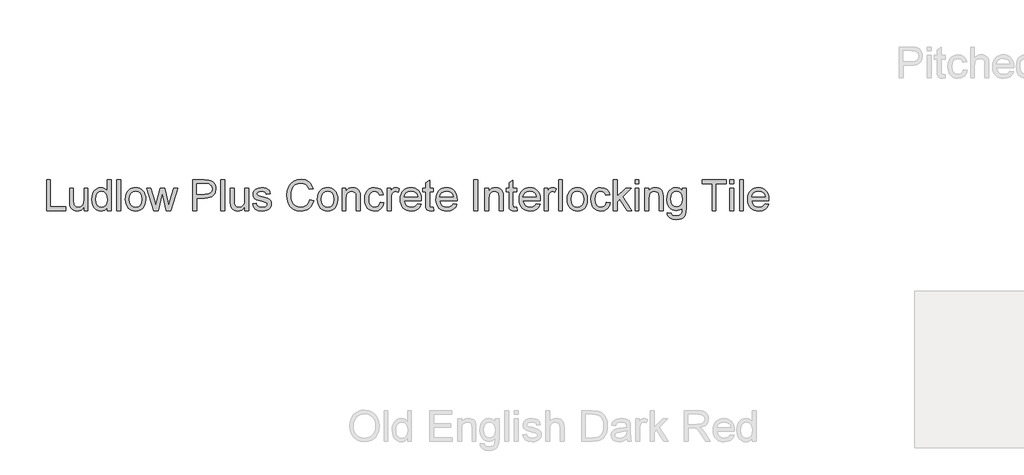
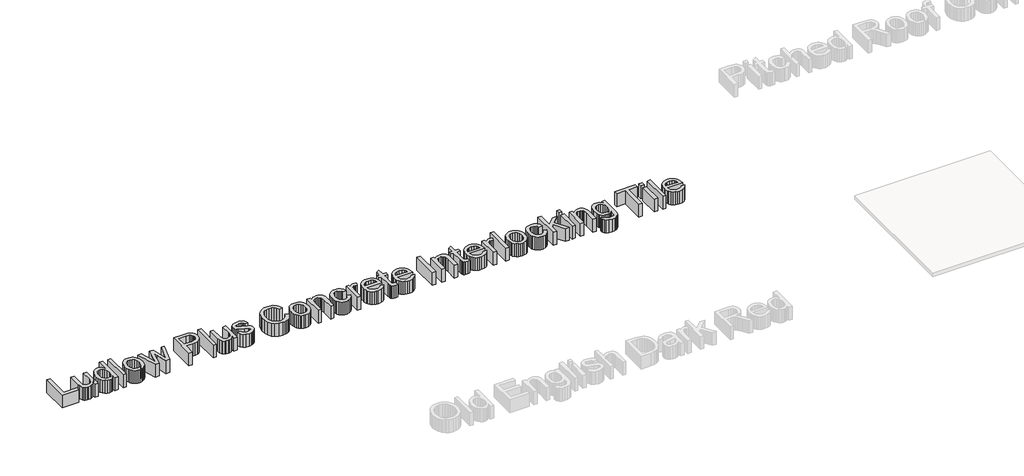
# One storey, part 3 of 5: 1 proxy.
"""IFC4 building model written with IfcOpenShell, lengths in millimetres."""

import ifcopenshell
import ifcopenshell.guid

model = None  # the IFC model being written
_history = None  # IfcOwnerHistory: only IFC2X3 demands one
_inside = {}  # id of a spatial element -> (the spatial element, [elements in it])
_under = {}  # id of a project, library or spatial element -> (it, [spatial elements below it])
_declared = {}  # id of a project -> (the project, [libraries it declares])
_typed = {}  # id of a type object -> (the type object, [elements of that type])
_made_of = {}  # id of a material, layer set ... -> (it, [elements and type objects made of it])


def new_model(schema):
    """Start an empty IFC model of exactly this schema.

    Asked for "IFC4X3", IfcOpenShell would pick the latest addendum, in which some entities
    have other attributes; the version numbers below select the first issue.
    IFC2X3 requires an IfcOwnerHistory on every rooted entity: one is made here for all.
    """
    global model, _history
    if schema == "IFC4X3":
        model = ifcopenshell.file(schema_version=(4, 3, 0, 0))
    else:
        model = ifcopenshell.file(schema=schema)
    _inside.clear()
    _under.clear()
    _declared.clear()
    _typed.clear()
    _made_of.clear()
    _history = None
    if model.schema == "IFC2X3":
        org = make("IfcOrganization", Name="unknown")
        user = make(
            "IfcPersonAndOrganization",
            ThePerson=make("IfcPerson", FamilyName="unknown"),
            TheOrganization=org,
        )
        app = make(
            "IfcApplication",
            ApplicationDeveloper=org,
            Version="unknown",
            ApplicationFullName="unknown",
            ApplicationIdentifier="unknown",
        )
        _history = make(
            "IfcOwnerHistory",
            OwningUser=user,
            OwningApplication=app,
            ChangeAction="ADDED",
            CreationDate=0,
        )
    return model


def make(cls, **values):
    """One entity of the class cls with the attributes given. An attribute that is None is left unset."""
    return model.create_entity(
        cls, **{name: value for name, value in values.items() if value is not None}
    )


def rooted(cls, **values):
    """An entity with a GlobalId (a new one), such as an element, a storey or a relation."""
    return make(cls, GlobalId=ifcopenshell.guid.new(), OwnerHistory=_history, **values)


def si_unit(unit_type, name, prefix=None):
    """IfcSIUnit, for example si_unit("LENGTHUNIT", "METRE", prefix="MILLI")."""
    return make("IfcSIUnit", UnitType=unit_type, Prefix=prefix, Name=name)


def assignment(units):
    """IfcUnitAssignment: the units of a project."""
    return None if units is None else make("IfcUnitAssignment", Units=units)


def point(xyz):
    """IfcCartesianPoint."""
    return None if xyz is None else make("IfcCartesianPoint", Coordinates=xyz)


def direction(xyz):
    """IfcDirection."""
    return None if xyz is None else make("IfcDirection", DirectionRatios=xyz)


def frame(location, z_axis=None, x_axis=None):
    """IfcAxis2Placement3D, a coordinate frame: its origin and axes. An axis left out is left unset."""
    return make(
        "IfcAxis2Placement3D",
        Location=point(location),
        Axis=direction(z_axis),
        RefDirection=direction(x_axis),
    )


def origin():
    """The frame at (0, 0, 0) with its axes left unset."""
    return frame((0.0, 0.0, 0.0))


def place(relative_to, where):
    """IfcLocalPlacement: puts the frame where relative to a parent placement (None: the world)."""
    return make(
        "IfcLocalPlacement", PlacementRelTo=relative_to, RelativePlacement=where
    )


def context(
    kind, dimensions, precision=None, world=None, true_north=None, identifier=None
):
    """IfcGeometricRepresentationContext, for example the 3D "Model" context."""
    return make(
        "IfcGeometricRepresentationContext",
        ContextIdentifier=identifier,
        ContextType=kind,
        CoordinateSpaceDimension=dimensions,
        Precision=precision,
        WorldCoordinateSystem=world,
        TrueNorth=true_north,
    )


def project(units=None, contexts=None):
    """IfcProject with its units and contexts."""
    return rooted(
        "IfcProject",
        Name="project",
        RepresentationContexts=contexts,
        UnitsInContext=assignment(units),
    )


def spatial(cls, under=None, at=None, **own):
    """A site, building, storey or space (cls), placed at a placement, below another one or the project."""
    s = rooted(cls, ObjectPlacement=at, **own)
    if under is not None:
        _under.setdefault(under.id(), (under, []))[1].append(s)
    return s


def polyline(points):
    """IfcPolyline through the points."""
    return make("IfcPolyline", Points=[point(p) for p in points])


def outline(outer, holes=None, kind="AREA"):
    """IfcArbitraryClosedProfileDef: a profile drawn as a closed curve; with holes, ...WithVoids."""
    if holes is None:
        return make("IfcArbitraryClosedProfileDef", ProfileType=kind, OuterCurve=outer)
    return make(
        "IfcArbitraryProfileDefWithVoids",
        ProfileType=kind,
        OuterCurve=outer,
        InnerCurves=holes,
    )


def extrude(swept, where, along, depth):
    """IfcExtrudedAreaSolid: the profile swept, set in the frame where, extruded along a direction by depth."""
    return make(
        "IfcExtrudedAreaSolid",
        SweptArea=swept,
        Position=where,
        ExtrudedDirection=direction(along),
        Depth=depth,
    )


def shape(context_of_items, identifier, shape_type, items):
    """IfcShapeRepresentation: the items that make up one representation, for example the "Body"."""
    return make(
        "IfcShapeRepresentation",
        ContextOfItems=context_of_items,
        RepresentationIdentifier=identifier,
        RepresentationType=shape_type,
        Items=items,
    )


def made_of(thing, what):
    """Note that an element or type object is made of a material, layer set ...; save() writes the relation."""
    if what is not None:
        _made_of.setdefault(what.id(), (what, []))[1].append(thing)
    return thing


def element(
    cls,
    number,
    at=None,
    inside=None,
    cuts=None,
    type_object=None,
    material=None,
    context=None,
    identifier="Body",
    shape_type=None,
    held_by="IfcProductDefinitionShape",
    body=None,
    shapes=None,
    **own,
):
    """One element of the class cls, such as IfcWall. Its Tag is "e" and its number.

    at: its placement. inside: the storey or other place that contains it. cuts: it is an
    opening in that element (IfcRelVoidsElement). A single representation is given by context,
    identifier, shape_type and body (its items); several are given by shapes. held_by: the class
    of the entity that holds the representations. save() writes the other relations.
    """
    e = rooted(cls, Tag="e%d" % number, ObjectPlacement=at, **own)
    if body is not None:
        shapes = [shape(context, identifier, shape_type, body)]
    if shapes is not None:
        e.Representation = make(held_by, Representations=shapes)
    if inside is not None:
        _inside.setdefault(inside.id(), (inside, []))[1].append(e)
    if cuts is not None:
        rooted(
            "IfcRelVoidsElement", RelatingBuildingElement=cuts, RelatedOpeningElement=e
        )
    if type_object is not None:
        _typed.setdefault(type_object.id(), (type_object, []))[1].append(e)
    return made_of(e, material)


def aggregate(whole, parts):
    """IfcRelAggregates: a whole, such as a stair, and the parts it consists of."""
    return rooted("IfcRelAggregates", RelatingObject=whole, RelatedObjects=parts)


def save(model, path):
    """Write the relations noted so far, then the file.

    IfcRelAggregates (storeys below a building ...), IfcRelContainedInSpatialStructure (elements
    in a storey), IfcRelDefinesByType, IfcRelAssociatesMaterial and IfcRelDeclares: one each for
    every whole, place, type object, material and project.
    """
    for whole, parts in _under.values():
        aggregate(whole, parts)
    for where, things in _inside.values():
        rooted(
            "IfcRelContainedInSpatialStructure",
            RelatedElements=things,
            RelatingStructure=where,
        )
    for kind, things in _typed.values():
        rooted("IfcRelDefinesByType", RelatedObjects=things, RelatingType=kind)
    for what, things in _made_of.values():
        rooted("IfcRelAssociatesMaterial", RelatedObjects=things, RelatingMaterial=what)
    for by, libraries in _declared.values():
        rooted("IfcRelDeclares", RelatingContext=by, RelatedDefinitions=libraries)
    model.write(path)


model = new_model("IFC4")

# Units and contexts
model_context = context("Model", 3, world=origin())
ifc_project = project(units=[si_unit("LENGTHUNIT", "METRE", prefix="MILLI")], contexts=[model_context])

# Site, building, storey
site = spatial("IfcSite", under=ifc_project)
building = spatial("IfcBuilding", under=site)
storey = spatial("IfcBuildingStorey", under=building, Name="Marley Concrete Interlocking Tile", Elevation=3000.0)

# Proxy
placement = place(None, origin())
element("IfcBuildingElementProxy", 1, Name="600mm Arial", ObjectType="600mm Arial", at=placement, inside=storey, context=model_context, shape_type="SweptSolid", body=[
    extrude(outline(polyline([(-19686.5156561, 5898.2213568), (-19686.5156561, 6193.6059722), (-19649.5925792, 6193.6059722), (-19649.5925792, 5935.1444337), (-19501.9002715, 5935.1444337), (-19501.9002715, 5898.2213568), (-19686.5156561, 5898.2213568)])), frame((0.0, 0.0, 3000.0), z_axis=(0.0, 0.0, 1.0), x_axis=(1.0, 0.0, 0.0)), (0.0, 0.0, 1.0), 150.0),
    extrude(outline(polyline([(-19326.5156561, 5898.2213568), (-19326.5156561, 5935.5050106), (-19339.8750311, 5917.1741813), (-19355.4339254, 5904.0807318), (-19373.1923388, 5896.2246621), (-19393.1502715, 5893.6059722), (-19411.1340456, 5895.4449145), (-19427.8738292, 5900.9617414), (-19441.9183004, 5909.2550106), (-19451.8161369, 5919.4232799), (-19462.8137331, 5946.6107799), (-19464.9771946, 5980.9377029), (-19464.9771946, 6115.1444337), (-19428.0541177, 6115.1444337), (-19428.0541177, 5998.3175106), (-19425.8185408, 5960.6732799), (-19420.4369302, 5948.1161885), (-19411.2151754, 5938.5699145), (-19398.7662571, 5932.5392654), (-19383.7031561, 5930.5290491), (-19367.7746706, 5932.5843376), (-19352.8738292, 5938.7502029), (-19340.5871706, 5948.4587366), (-19332.5012331, 5961.1420299), (-19328.0120504, 5978.5128231), (-19326.5156561, 6002.2838568), (-19326.5156561, 6115.1444337), (-19289.5925792, 6115.1444337), (-19289.5925792, 5898.2213568), (-19326.5156561, 5898.2213568)])), frame((0.0, 0.0, 3000.0), z_axis=(0.0, 0.0, 1.0), x_axis=(1.0, 0.0, 0.0)), (0.0, 0.0, 1.0), 150.0),
    extrude(outline(polyline([(-19104.9771946, 5898.2213568), (-19104.9771946, 5933.0530876), (-19116.0243701, 5915.7949746), (-19129.4062811, 5903.467751), (-19145.1229278, 5896.0714169), (-19163.17431, 5893.6059722), (-19187.0445023, 5897.1756837), (-19208.8954638, 5907.8848183), (-19227.39306, 5924.9851789), (-19241.2031561, 5947.7285683), (-19249.8029158, 5975.1955154), (-19252.6695023, 6006.4665491), (-19250.0282763, 6037.3499626), (-19242.1045985, 6065.2405876), (-19228.9074831, 6088.5518856), (-19210.4459446, 6105.6973183), (-19188.1172186, 6116.2441933), (-19163.3185408, 6119.7598183), (-19145.2536369, 6117.2447943), (-19129.2800792, 6109.6997222), (-19115.7404158, 6098.1342174), (-19104.9771946, 6083.5578952), (-19104.9771946, 6193.6059722), (-19068.0541177, 6193.6059722), (-19068.0541177, 5898.2213568), (-19104.9771946, 5898.2213568)]), holes=[polyline([(-19215.7464254, 6006.6107799), (-19211.5817619, 5973.2123424), (-19199.0877715, 5949.4593376), (-19180.9327235, 5935.2616212), (-19159.7848869, 5930.5290491), (-19138.6460648, 5935.0452751), (-19120.9507523, 5948.5939529), (-19108.970584, 5971.4274866), (-19104.9771946, 6003.7982799), (-19109.0426994, 6039.1889049), (-19121.2392138, 6063.7261645), (-19139.3852475, 6078.0590972), (-19161.29931, 6082.8367414), (-19182.6634927, 6078.2484001), (-19200.1695023, 6064.483376), (-19211.8521946, 6040.8385443), (-19215.7464254, 6006.6107799)])]), frame((0.0, 0.0, 3000.0), z_axis=(0.0, 0.0, 1.0), x_axis=(1.0, 0.0, 0.0)), (0.0, 0.0, 1.0), 150.0),
    extrude(outline(polyline([(-19012.6695023, 5898.2213568), (-19012.6695023, 6193.6059722), (-18975.7464254, 6193.6059722), (-18975.7464254, 5898.2213568), (-19012.6695023, 5898.2213568)])), frame((0.0, 0.0, 3000.0), z_axis=(0.0, 0.0, 1.0), x_axis=(1.0, 0.0, 0.0)), (0.0, 0.0, 1.0), 150.0),
    extrude(outline(polyline([(-18929.5925792, 6006.6828952), (-18927.5958845, 6034.7763448), (-18921.6058004, 6058.9845779), (-18911.6223268, 6079.3075948), (-18897.6454638, 6095.7453952), (-18883.5739494, 6106.2517053), (-18868.0420985, 6113.7562126), (-18851.049911, 6118.2589169), (-18832.5973869, 6119.7598183), (-18812.2270444, 6117.932144), (-18793.8083244, 6112.4491212), (-18777.3412271, 6103.3107498), (-18762.8257523, 6090.5170299), (-18750.9785468, 6074.5006537), (-18742.5162571, 6055.6943135), (-18737.4388833, 6034.0980094), (-18735.7464254, 6009.7117414), (-18738.7392138, 5972.4100587), (-18747.7175792, 5944.014626), (-18762.4201033, 5922.749602), (-18782.5853677, 5906.8391452), (-18806.5366898, 5896.9142654), (-18832.5973869, 5893.6059722), (-18853.2652054, 5895.4268856), (-18871.8551994, 5900.889626), (-18888.3673689, 5909.9941933), (-18902.8017138, 5922.7405876), (-18914.5227174, 5938.9124626), (-18922.8948629, 5958.2934722), (-18927.9181501, 5980.8836164), (-18929.5925792, 6006.6828952)]), holes=[polyline([(-18892.6695023, 6006.7550106), (-18888.3966658, 5973.3385443), (-18875.5781561, 5949.5314529), (-18856.2872908, 5935.2796501), (-18832.5973869, 5930.5290491), (-18809.0156561, 5935.3066933), (-18789.7608485, 5949.639626), (-18776.9423388, 5973.7622222), (-18772.6695023, 6007.9088568), (-18776.9693821, 6040.3517654), (-18789.8690215, 6063.8343376), (-18809.1508725, 6078.0861404), (-18832.5973869, 6082.8367414), (-18856.2872908, 6078.1041693), (-18875.5781561, 6063.9064529), (-18888.3966658, 6040.1534481), (-18892.6695023, 6006.7550106)])]), frame((0.0, 0.0, 3000.0), z_axis=(0.0, 0.0, 1.0), x_axis=(1.0, 0.0, 0.0)), (0.0, 0.0, 1.0), 150.0),
    extrude(outline(polyline([(-18658.2223869, 5898.2213568), (-18724.2079638, 6115.1444337), (-18685.8425792, 6115.1444337), (-18648.4146946, 5988.5819337), (-18637.23681, 5943.3655876), (-18628.0781561, 5986.9232799), (-18598.2945023, 6115.1444337), (-18554.3041177, 6115.1444337), (-18524.6646946, 5987.2838568), (-18516.5156561, 5947.8367414), (-18504.8329638, 5989.4473183), (-18467.3329638, 6115.1444337), (-18428.8233485, 6115.1444337), (-18495.3137331, 5898.2213568), (-18539.9531561, 5898.2213568), (-18568.2945023, 6025.4328952), (-18576.5156561, 6065.0963568), (-18613.0781561, 5898.2213568), (-18658.2223869, 5898.2213568)])), frame((0.0, 0.0, 3000.0), z_axis=(0.0, 0.0, 1.0), x_axis=(1.0, 0.0, 0.0)), (0.0, 0.0, 1.0), 150.0),
    extrude(outline(polyline([(-18283.4387331, 5898.2213568), (-18283.4387331, 6193.6059722), (-18173.9675792, 6193.6059722), (-18129.8329638, 6190.7934722), (-18110.1544783, 6185.5380635), (-18093.95556, 6176.983376), (-18080.9116898, 6164.7417895), (-18070.6983485, 6148.4256837), (-18064.0997908, 6129.1798904), (-18061.9002715, 6108.1492414), (-18067.8407763, 6073.3355395), (-18075.2664074, 6058.1056717), (-18085.6622908, 6044.327126), (-18099.9343761, 6032.905852), (-18118.9886129, 6024.7477991), (-18142.8250011, 6019.8529674), (-18171.4435408, 6018.2213568), (-18246.5156561, 6018.2213568), (-18246.5156561, 5898.2213568), (-18283.4387331, 5898.2213568)]), holes=[polyline([(-18246.5156561, 6055.1444337), (-18169.2800792, 6055.1444337), (-18136.5396946, 6058.5338568), (-18114.9050792, 6068.702126), (-18102.8437811, 6085.0182318), (-18098.8233485, 6106.8511645), (-18101.1941417, 6123.4377029), (-18108.3065215, 6137.4280876), (-18119.2770744, 6147.9569337), (-18133.2223869, 6154.1588568), (-18170.1454638, 6156.6828952), (-18246.5156561, 6156.6828952), (-18246.5156561, 6055.1444337)])]), frame((0.0, 0.0, 3000.0), z_axis=(0.0, 0.0, 1.0), x_axis=(1.0, 0.0, 0.0)), (0.0, 0.0, 1.0), 150.0),
    extrude(outline(polyline([(-18015.7464254, 5898.2213568), (-18015.7464254, 6193.6059722), (-17978.8233485, 6193.6059722), (-17978.8233485, 5898.2213568), (-18015.7464254, 5898.2213568)])), frame((0.0, 0.0, 3000.0), z_axis=(0.0, 0.0, 1.0), x_axis=(1.0, 0.0, 0.0)), (0.0, 0.0, 1.0), 150.0),
    extrude(outline(polyline([(-17784.9771946, 5898.2213568), (-17784.9771946, 5935.5050106), (-17798.3365696, 5917.1741813), (-17813.8954638, 5904.0807318), (-17831.6538773, 5896.2246621), (-17851.61181, 5893.6059722), (-17869.595584, 5895.4449145), (-17886.3353677, 5900.9617414), (-17900.3798388, 5909.2550106), (-17910.2776754, 5919.4232799), (-17921.2752715, 5946.6107799), (-17923.4387331, 5980.9377029), (-17923.4387331, 6115.1444337), (-17886.5156561, 6115.1444337), (-17886.5156561, 5998.3175106), (-17884.2800792, 5960.6732799), (-17878.8984686, 5948.1161885), (-17869.6767138, 5938.5699145), (-17857.2277956, 5932.5392654), (-17842.1646946, 5930.5290491), (-17826.236209, 5932.5843376), (-17811.3353677, 5938.7502029), (-17799.048709, 5948.4587366), (-17790.9627715, 5961.1420299), (-17786.4735888, 5978.5128231), (-17784.9771946, 6002.2838568), (-17784.9771946, 6115.1444337), (-17748.0541177, 6115.1444337), (-17748.0541177, 5898.2213568), (-17784.9771946, 5898.2213568)])), frame((0.0, 0.0, 3000.0), z_axis=(0.0, 0.0, 1.0), x_axis=(1.0, 0.0, 0.0)), (0.0, 0.0, 1.0), 150.0),
    extrude(outline(polyline([(-17711.1310408, 5962.8367414), (-17674.2079638, 5967.452126), (-17668.3846465, 5951.6588568), (-17657.1166177, 5940.0482799), (-17640.3317619, 5932.9088568), (-17617.9579638, 5930.5290491), (-17595.8545985, 5932.7105395), (-17580.3137331, 5939.2550106), (-17571.1190215, 5948.7381837), (-17568.0541177, 5959.7357799), (-17571.1370504, 5969.1468376), (-17580.3858485, 5976.3223183), (-17618.3906561, 5986.8511645), (-17673.9916177, 6004.9160683), (-17688.0631321, 6013.9935924), (-17698.2584446, 6026.0098183), (-17704.4513533, 6040.1985202), (-17706.5156561, 6055.7934722), (-17704.8570023, 6070.0993616), (-17699.8810408, 6083.3054914), (-17692.0384927, 6094.8890251), (-17681.7800792, 6104.327126), (-17658.3065215, 6115.2526068), (-17626.5396946, 6119.7598183), (-17602.5072427, 6117.9479193), (-17581.61181, 6112.5122222), (-17564.8089254, 6103.9845779), (-17553.0541177, 6092.8968376), (-17545.2656561, 6078.4286885), (-17540.36181, 6059.7598183), (-17577.2848869, 6055.1444337), (-17581.9453436, 6066.7640251), (-17591.1670985, 6075.5170299), (-17605.0402956, 6081.0068135), (-17623.6550792, 6082.8367414), (-17644.8570023, 6081.0879433), (-17658.9916177, 6075.8415491), (-17666.9423388, 6068.2694337), (-17669.5925792, 6059.5434722), (-17665.1935408, 6048.7982799), (-17651.4195023, 6040.6492414), (-17619.6166177, 6032.7886645), (-17565.4219061, 6015.4088568), (-17551.1070023, 6007.0975587), (-17540.2536369, 5995.7213568), (-17533.4116898, 5981.2441933), (-17531.1310408, 5963.6300106), (-17533.8083244, 5945.420876), (-17541.8401754, 5928.2934722), (-17554.9201033, 5913.5909481), (-17572.7416177, 5902.6564529), (-17594.26806, 5895.8685924), (-17618.4627715, 5893.6059722), (-17655.6923388, 5897.9689529), (-17682.86181, 5911.0578952), (-17700.9988292, 5932.7285683), (-17711.1310408, 5962.8367414)])), frame((0.0, 0.0, 3000.0), z_axis=(0.0, 0.0, 1.0), x_axis=(1.0, 0.0, 0.0)), (0.0, 0.0, 1.0), 150.0),
    extrude(outline(polyline([(-17161.9002715, 6003.2213568), (-17124.9771946, 5993.702126), (-17132.2833845, 5970.7401368), (-17142.0144542, 5950.6762847), (-17154.1704037, 5933.5105695), (-17168.7512331, 5919.2429914), (-17185.4279158, 5908.0267955), (-17203.8714254, 5900.015227), (-17224.0817619, 5895.2082859), (-17246.0589254, 5893.6059722), (-17288.8864494, 5898.4557318), (-17322.8978677, 5913.0050106), (-17348.9675792, 5936.749001), (-17367.9699831, 5969.1828952), (-17379.5715456, 6007.3139049), (-17383.4387331, 6048.1492414), (-17379.0667379, 6091.2201549), (-17365.9507523, 6128.4136645), (-17344.7758725, 6158.5488808), (-17316.2271946, 6180.4449145), (-17282.3690215, 6193.7772462), (-17245.2656561, 6198.2213568), (-17204.7818821, 6192.4701549), (-17187.169953, 6185.2811525), (-17171.3113292, 6175.2165491), (-17157.467429, 6162.5422702), (-17145.8996706, 6147.5242414), (-17129.5925792, 6110.4569337), (-17166.5156561, 6101.6588568), (-17179.3161369, 6128.5849385), (-17196.8041177, 6147.0554914), (-17219.1959446, 6157.7375827), (-17246.7079638, 6161.2982799), (-17278.4207042, 6157.3499626), (-17304.4723869, 6145.5050106), (-17324.2410167, 6127.0074145), (-17337.1045985, 6103.1011645), (-17344.1628917, 6076.0759241), (-17346.5156561, 6048.2213568), (-17343.7301994, 6014.1107799), (-17335.3738292, 5984.6155876), (-17321.1310408, 5960.8625827), (-17300.6863292, 5943.9785683), (-17276.1761129, 5933.8914289), (-17249.73681, 5930.5290491), (-17218.9164975, 5935.108376), (-17193.2344061, 5948.8463568), (-17173.8443821, 5971.5987606), (-17161.9002715, 6003.2213568)])), frame((0.0, 0.0, 3000.0), z_axis=(0.0, 0.0, 1.0), x_axis=(1.0, 0.0, 0.0)), (0.0, 0.0, 1.0), 150.0),
    extrude(outline(polyline([(-17088.0541177, 6006.6828952), (-17086.057423, 6034.7763448), (-17080.0673388, 6058.9845779), (-17070.0838653, 6079.3075948), (-17056.1070023, 6095.7453952), (-17042.0354879, 6106.2517053), (-17026.5036369, 6113.7562126), (-17009.5114494, 6118.2589169), (-16991.0589254, 6119.7598183), (-16970.6885828, 6117.932144), (-16952.2698629, 6112.4491212), (-16935.8027655, 6103.3107498), (-16921.2872908, 6090.5170299), (-16909.4400852, 6074.5006537), (-16900.9777956, 6055.6943135), (-16895.9004218, 6034.0980094), (-16894.2079638, 6009.7117414), (-16897.2007523, 5972.4100587), (-16906.1791177, 5944.014626), (-16920.8816417, 5922.749602), (-16941.0469061, 5906.8391452), (-16964.9982283, 5896.9142654), (-16991.0589254, 5893.6059722), (-17011.7267439, 5895.4268856), (-17030.3167379, 5900.889626), (-17046.8289074, 5909.9941933), (-17061.2632523, 5922.7405876), (-17072.9842559, 5938.9124626), (-17081.3564013, 5958.2934722), (-17086.3796886, 5980.8836164), (-17088.0541177, 6006.6828952)]), holes=[polyline([(-17051.1310408, 6006.7550106), (-17046.8582042, 5973.3385443), (-17034.0396946, 5949.5314529), (-17014.7488292, 5935.2796501), (-16991.0589254, 5930.5290491), (-16967.4771946, 5935.3066933), (-16948.2223869, 5949.639626), (-16935.4038773, 5973.7622222), (-16931.1310408, 6007.9088568), (-16935.4309206, 6040.3517654), (-16948.33056, 6063.8343376), (-16967.612411, 6078.0861404), (-16991.0589254, 6082.8367414), (-17014.7488292, 6078.1041693), (-17034.0396946, 6063.9064529), (-17046.8582042, 6040.1534481), (-17051.1310408, 6006.7550106)])]), frame((0.0, 0.0, 3000.0), z_axis=(0.0, 0.0, 1.0), x_axis=(1.0, 0.0, 0.0)), (0.0, 0.0, 1.0), 150.0),
    extrude(outline(polyline([(-16852.6695023, 5898.2213568), (-16852.6695023, 6115.1444337), (-16815.7464254, 6115.1444337), (-16815.7464254, 6084.8559722), (-16802.9189013, 6100.1264049), (-16787.5132523, 6111.0338568), (-16769.5294783, 6117.5783279), (-16748.9675792, 6119.7598183), (-16730.767459, 6118.0020058), (-16714.0997908, 6112.7285683), (-16700.1995504, 6104.5975587), (-16690.3017138, 6094.2670299), (-16679.2320023, 6067.1155876), (-16677.2848869, 6031.4184722), (-16677.2848869, 5898.2213568), (-16714.2079638, 5898.2213568), (-16714.2079638, 6026.4425106), (-16718.4627715, 6059.1107799), (-16724.3491898, 6068.8373424), (-16733.4988292, 6076.3824145), (-16745.2265936, 6081.2231597), (-16758.8473869, 6082.8367414), (-16780.4729879, 6079.2129433), (-16798.9074831, 6068.3415491), (-16806.2745203, 6059.4668496), (-16811.5366898, 6047.3379433), (-16815.7464254, 6013.3175106), (-16815.7464254, 5898.2213568), (-16852.6695023, 5898.2213568)])), frame((0.0, 0.0, 3000.0), z_axis=(0.0, 0.0, 1.0), x_axis=(1.0, 0.0, 0.0)), (0.0, 0.0, 1.0), 150.0),
    extrude(outline(polyline([(-16488.0541177, 5976.6828952), (-16451.1310408, 5972.0675106), (-16461.4255119, 5939.2279674), (-16480.7704638, 5914.4112606), (-16507.3449831, 5898.8072943), (-16539.3281561, 5893.6059722), (-16560.0365396, 5895.4201248), (-16578.6039975, 5900.8625827), (-16595.0305299, 5909.933346), (-16609.3161369, 5922.6324145), (-16620.8793881, 5938.7209061), (-16629.1388533, 5957.9599385), (-16634.0945324, 5980.3495118), (-16635.7464254, 6005.889626), (-16632.924911, 6038.7471981), (-16624.4603677, 6067.2237606), (-16610.2175792, 6090.2195539), (-16590.0613292, 6106.6348183), (-16565.9477475, 6116.4785683), (-16539.8329638, 6119.7598183), (-16508.6340456, 6115.2526068), (-16483.6911369, 6101.7309722), (-16465.7975071, 6079.9160683), (-16455.7464254, 6050.5290491), (-16492.6695023, 6045.9136645), (-16499.3672186, 6062.0224385), (-16509.7969061, 6073.5699145), (-16523.3816417, 6080.5200347), (-16539.5445023, 6082.8367414), (-16563.4056802, 6078.2754433), (-16582.3449831, 6064.5915491), (-16594.7037571, 6041.045876), (-16598.8233485, 6006.8992414), (-16594.7939013, 5972.2928712), (-16582.70556, 5948.6660683), (-16564.1088052, 5935.0633039), (-16540.5541177, 5930.5290491), (-16521.4345263, 5933.3595779), (-16505.7584446, 5941.8511645), (-16494.3551994, 5956.2201549), (-16488.0541177, 5976.6828952)])), frame((0.0, 0.0, 3000.0), z_axis=(0.0, 0.0, 1.0), x_axis=(1.0, 0.0, 0.0)), (0.0, 0.0, 1.0), 150.0),
    extrude(outline(polyline([(-16418.8233485, 5898.2213568), (-16418.8233485, 6115.1444337), (-16386.5156561, 6115.1444337), (-16386.5156561, 6083.0530876), (-16374.58056, 6101.6588568), (-16363.5829638, 6112.6203952), (-16352.54931, 6117.9749626), (-16340.5060408, 6119.7598183), (-16322.1166177, 6116.9112606), (-16303.4387331, 6108.3655876), (-16315.7704638, 6075.264626), (-16328.7512331, 6080.9437126), (-16341.7320023, 6082.8367414), (-16352.7566417, 6081.0158279), (-16362.6094061, 6075.5530876), (-16370.5691417, 6066.8631837), (-16375.9146946, 6055.3607799), (-16380.4038773, 6034.7357799), (-16381.9002715, 6012.2357799), (-16381.9002715, 5898.2213568), (-16418.8233485, 5898.2213568)])), frame((0.0, 0.0, 3000.0), z_axis=(0.0, 0.0, 1.0), x_axis=(1.0, 0.0, 0.0)), (0.0, 0.0, 1.0), 150.0),
    extrude(outline(polyline([(-16128.48681, 5962.8367414), (-16092.2848869, 5958.2213568), (-16105.3287571, 5930.9437126), (-16126.14306, 5910.5530876), (-16154.2590456, 5897.842751), (-16189.2079638, 5893.6059722), (-16212.1181201, 5895.4336464), (-16232.5312811, 5900.9166693), (-16250.447447, 5910.0550407), (-16265.8666177, 5922.8487606), (-16278.2659566, 5938.9417594), (-16287.1226273, 5957.9779674), (-16292.4366297, 5979.9573844), (-16294.2079638, 6004.8800106), (-16292.4186009, 6030.647739), (-16287.0505119, 6053.3595779), (-16278.103697, 6073.0155275), (-16265.5781561, 6089.6155876), (-16250.1995504, 6102.8036885), (-16232.6935408, 6112.2237606), (-16213.0601273, 6117.8758039), (-16191.29931, 6119.7598183), (-16170.2393641, 6117.8803111), (-16151.1941417, 6112.2417895), (-16134.1636429, 6102.8442534), (-16119.1478677, 6089.6877029), (-16106.8905059, 6073.1237005), (-16098.1352475, 6053.5038087), (-16092.8820924, 6030.8280275), (-16091.1310408, 6005.0963568), (-16091.3473869, 5995.1444337), (-16257.2848869, 5995.1444337), (-16250.893661, 5967.5062126), (-16236.0469061, 5947.1877029), (-16214.6196225, 5934.6937126), (-16188.48681, 5930.5290491), (-16168.8353677, 5932.4581356), (-16152.2848869, 5938.2453952), (-16138.8353677, 5948.2514049), (-16128.48681, 5962.8367414)]), holes=[polyline([(-16257.2848869, 6032.0675106), (-16128.0541177, 6032.0675106), (-16133.0481081, 6051.5747222), (-16142.8377715, 6065.5290491), (-16164.3642138, 6078.5098183), (-16191.4435408, 6082.8367414), (-16216.3323629, 6079.3842174), (-16236.9122908, 6069.0266452), (-16251.2181802, 6052.8818135), (-16257.2848869, 6032.0675106)])]), frame((0.0, 0.0, 3000.0), z_axis=(0.0, 0.0, 1.0), x_axis=(1.0, 0.0, 0.0)), (0.0, 0.0, 1.0), 150.0),
    extrude(outline(polyline([(-15975.7464254, 5929.014626), (-15971.1310408, 5897.139626), (-15998.7512331, 5893.6059722), (-16016.4735888, 5895.1384241), (-16029.6887331, 5899.7357799), (-16039.0276754, 5906.8211164), (-16045.1214254, 5915.8175106), (-16048.4747908, 5931.2682318), (-16049.5925792, 5957.7165491), (-16049.5925792, 6078.2213568), (-16077.2848869, 6078.2213568), (-16077.2848869, 6115.1444337), (-16049.5925792, 6115.1444337), (-16049.5925792, 6167.8607799), (-16012.6695023, 6189.5675106), (-16012.6695023, 6115.1444337), (-15975.7464254, 6115.1444337), (-15975.7464254, 6078.2213568), (-16012.6695023, 6078.2213568), (-16012.6695023, 5958.7982799), (-16010.7223869, 5939.7598183), (-16004.4122908, 5933.0170299), (-15991.8281561, 5930.5290491), (-15975.7464254, 5929.014626)])), frame((0.0, 0.0, 3000.0), z_axis=(0.0, 0.0, 1.0), x_axis=(1.0, 0.0, 0.0)), (0.0, 0.0, 1.0), 150.0),
    extrude(outline(polyline([(-15786.9483485, 5962.8367414), (-15750.7464254, 5958.2213568), (-15763.7902956, 5930.9437126), (-15784.6045985, 5910.5530876), (-15812.720584, 5897.842751), (-15847.6695023, 5893.6059722), (-15870.5796586, 5895.4336464), (-15890.9928196, 5900.9166693), (-15908.9089855, 5910.0550407), (-15924.3281561, 5922.8487606), (-15936.7274951, 5938.9417594), (-15945.5841658, 5957.9779674), (-15950.8981682, 5979.9573844), (-15952.6695023, 6004.8800106), (-15950.8801393, 6030.647739), (-15945.5120504, 6053.3595779), (-15936.5652355, 6073.0155275), (-15924.0396946, 6089.6155876), (-15908.6610888, 6102.8036885), (-15891.1550792, 6112.2237606), (-15871.5216658, 6117.8758039), (-15849.7608485, 6119.7598183), (-15828.7009025, 6117.8803111), (-15809.6556802, 6112.2417895), (-15792.6251814, 6102.8442534), (-15777.6094061, 6089.6877029), (-15765.3520444, 6073.1237005), (-15756.596786, 6053.5038087), (-15751.3436309, 6030.8280275), (-15749.5925792, 6005.0963568), (-15749.8089254, 5995.1444337), (-15915.7464254, 5995.1444337), (-15909.3551994, 5967.5062126), (-15894.5084446, 5947.1877029), (-15873.081161, 5934.6937126), (-15846.9483485, 5930.5290491), (-15827.2969061, 5932.4581356), (-15810.7464254, 5938.2453952), (-15797.2969061, 5948.2514049), (-15786.9483485, 5962.8367414)]), holes=[polyline([(-15915.7464254, 6032.0675106), (-15786.5156561, 6032.0675106), (-15791.5096465, 6051.5747222), (-15801.29931, 6065.5290491), (-15822.8257523, 6078.5098183), (-15849.9050792, 6082.8367414), (-15874.7939013, 6079.3842174), (-15895.3738292, 6069.0266452), (-15909.6797186, 6052.8818135), (-15915.7464254, 6032.0675106)])]), frame((0.0, 0.0, 3000.0), z_axis=(0.0, 0.0, 1.0), x_axis=(1.0, 0.0, 0.0)), (0.0, 0.0, 1.0), 150.0),
    extrude(outline(polyline([(-15588.0541177, 5898.2213568), (-15588.0541177, 6193.6059722), (-15551.1310408, 6193.6059722), (-15551.1310408, 5898.2213568), (-15588.0541177, 5898.2213568)])), frame((0.0, 0.0, 3000.0), z_axis=(0.0, 0.0, 1.0), x_axis=(1.0, 0.0, 0.0)), (0.0, 0.0, 1.0), 150.0),
    extrude(outline(polyline([(-15481.9002715, 5898.2213568), (-15481.9002715, 6115.1444337), (-15444.9771946, 6115.1444337), (-15444.9771946, 6084.8559722), (-15432.1496706, 6100.1264049), (-15416.7440215, 6111.0338568), (-15398.7602475, 6117.5783279), (-15378.1983485, 6119.7598183), (-15359.9982283, 6118.0020058), (-15343.33056, 6112.7285683), (-15329.4303196, 6104.5975587), (-15319.5324831, 6094.2670299), (-15308.4627715, 6067.1155876), (-15306.5156561, 6031.4184722), (-15306.5156561, 5898.2213568), (-15343.4387331, 5898.2213568), (-15343.4387331, 6026.4425106), (-15347.6935408, 6059.1107799), (-15353.579959, 6068.8373424), (-15362.7295985, 6076.3824145), (-15374.4573629, 6081.2231597), (-15388.0781561, 6082.8367414), (-15409.7037571, 6079.2129433), (-15428.1382523, 6068.3415491), (-15435.5052896, 6059.4668496), (-15440.767459, 6047.3379433), (-15444.9771946, 6013.3175106), (-15444.9771946, 5898.2213568), (-15481.9002715, 5898.2213568)])), frame((0.0, 0.0, 3000.0), z_axis=(0.0, 0.0, 1.0), x_axis=(1.0, 0.0, 0.0)), (0.0, 0.0, 1.0), 150.0),
    extrude(outline(polyline([(-15177.2848869, 5929.014626), (-15172.6695023, 5897.139626), (-15200.2896946, 5893.6059722), (-15218.0120504, 5895.1384241), (-15231.2271946, 5899.7357799), (-15240.5661369, 5906.8211164), (-15246.6598869, 5915.8175106), (-15250.0132523, 5931.2682318), (-15251.1310408, 5957.7165491), (-15251.1310408, 6078.2213568), (-15278.8233485, 6078.2213568), (-15278.8233485, 6115.1444337), (-15251.1310408, 6115.1444337), (-15251.1310408, 6167.8607799), (-15214.2079638, 6189.5675106), (-15214.2079638, 6115.1444337), (-15177.2848869, 6115.1444337), (-15177.2848869, 6078.2213568), (-15214.2079638, 6078.2213568), (-15214.2079638, 5958.7982799), (-15212.2608485, 5939.7598183), (-15205.9507523, 5933.0170299), (-15193.3666177, 5930.5290491), (-15177.2848869, 5929.014626)])), frame((0.0, 0.0, 3000.0), z_axis=(0.0, 0.0, 1.0), x_axis=(1.0, 0.0, 0.0)), (0.0, 0.0, 1.0), 150.0),
    extrude(outline(polyline([(-14988.48681, 5962.8367414), (-14952.2848869, 5958.2213568), (-14965.3287571, 5930.9437126), (-14986.14306, 5910.5530876), (-15014.2590456, 5897.842751), (-15049.2079638, 5893.6059722), (-15072.1181201, 5895.4336464), (-15092.5312811, 5900.9166693), (-15110.447447, 5910.0550407), (-15125.8666177, 5922.8487606), (-15138.2659566, 5938.9417594), (-15147.1226273, 5957.9779674), (-15152.4366297, 5979.9573844), (-15154.2079638, 6004.8800106), (-15152.4186009, 6030.647739), (-15147.0505119, 6053.3595779), (-15138.103697, 6073.0155275), (-15125.5781561, 6089.6155876), (-15110.1995504, 6102.8036885), (-15092.6935408, 6112.2237606), (-15073.0601273, 6117.8758039), (-15051.29931, 6119.7598183), (-15030.2393641, 6117.8803111), (-15011.1941417, 6112.2417895), (-14994.1636429, 6102.8442534), (-14979.1478677, 6089.6877029), (-14966.8905059, 6073.1237005), (-14958.1352475, 6053.5038087), (-14952.8820924, 6030.8280275), (-14951.1310408, 6005.0963568), (-14951.3473869, 5995.1444337), (-15117.2848869, 5995.1444337), (-15110.893661, 5967.5062126), (-15096.0469061, 5947.1877029), (-15074.6196225, 5934.6937126), (-15048.48681, 5930.5290491), (-15028.8353677, 5932.4581356), (-15012.2848869, 5938.2453952), (-14998.8353677, 5948.2514049), (-14988.48681, 5962.8367414)]), holes=[polyline([(-15117.2848869, 6032.0675106), (-14988.0541177, 6032.0675106), (-14993.0481081, 6051.5747222), (-15002.8377715, 6065.5290491), (-15024.3642138, 6078.5098183), (-15051.4435408, 6082.8367414), (-15076.3323629, 6079.3842174), (-15096.9122908, 6069.0266452), (-15111.2181802, 6052.8818135), (-15117.2848869, 6032.0675106)])]), frame((0.0, 0.0, 3000.0), z_axis=(0.0, 0.0, 1.0), x_axis=(1.0, 0.0, 0.0)), (0.0, 0.0, 1.0), 150.0),
    extrude(outline(polyline([(-14914.2079638, 5898.2213568), (-14914.2079638, 6115.1444337), (-14881.9002715, 6115.1444337), (-14881.9002715, 6083.0530876), (-14869.9651754, 6101.6588568), (-14858.9675792, 6112.6203952), (-14847.9339254, 6117.9749626), (-14835.8906561, 6119.7598183), (-14817.5012331, 6116.9112606), (-14798.8233485, 6108.3655876), (-14811.1550792, 6075.264626), (-14824.1358485, 6080.9437126), (-14837.1166177, 6082.8367414), (-14848.1412571, 6081.0158279), (-14857.9940215, 6075.5530876), (-14865.9537571, 6066.8631837), (-14871.29931, 6055.3607799), (-14875.7884927, 6034.7357799), (-14877.2848869, 6012.2357799), (-14877.2848869, 5898.2213568), (-14914.2079638, 5898.2213568)])), frame((0.0, 0.0, 3000.0), z_axis=(0.0, 0.0, 1.0), x_axis=(1.0, 0.0, 0.0)), (0.0, 0.0, 1.0), 150.0),
    extrude(outline(polyline([(-14775.7464254, 5898.2213568), (-14775.7464254, 6193.6059722), (-14738.8233485, 6193.6059722), (-14738.8233485, 5898.2213568), (-14775.7464254, 5898.2213568)])), frame((0.0, 0.0, 3000.0), z_axis=(0.0, 0.0, 1.0), x_axis=(1.0, 0.0, 0.0)), (0.0, 0.0, 1.0), 150.0),
    extrude(outline(polyline([(-14692.6695023, 6006.6828952), (-14690.6728076, 6034.7763448), (-14684.6827235, 6058.9845779), (-14674.6992499, 6079.3075948), (-14660.7223869, 6095.7453952), (-14646.6508725, 6106.2517053), (-14631.1190215, 6113.7562126), (-14614.126834, 6118.2589169), (-14595.67431, 6119.7598183), (-14575.3039674, 6117.932144), (-14556.8852475, 6112.4491212), (-14540.4181501, 6103.3107498), (-14525.9026754, 6090.5170299), (-14514.0554699, 6074.5006537), (-14505.5931802, 6055.6943135), (-14500.5158064, 6034.0980094), (-14498.8233485, 6009.7117414), (-14501.8161369, 5972.4100587), (-14510.7945023, 5944.014626), (-14525.4970263, 5922.749602), (-14545.6622908, 5906.8391452), (-14569.6136129, 5896.9142654), (-14595.67431, 5893.6059722), (-14616.3421285, 5895.4268856), (-14634.9321225, 5900.889626), (-14651.444292, 5909.9941933), (-14665.8786369, 5922.7405876), (-14677.5996405, 5938.9124626), (-14685.971786, 5958.2934722), (-14690.9950732, 5980.8836164), (-14692.6695023, 6006.6828952)]), holes=[polyline([(-14655.7464254, 6006.7550106), (-14651.4735888, 5973.3385443), (-14638.6550792, 5949.5314529), (-14619.3642138, 5935.2796501), (-14595.67431, 5930.5290491), (-14572.0925792, 5935.3066933), (-14552.8377715, 5949.639626), (-14540.0192619, 5973.7622222), (-14535.7464254, 6007.9088568), (-14540.0463052, 6040.3517654), (-14552.9459446, 6063.8343376), (-14572.2277956, 6078.0861404), (-14595.67431, 6082.8367414), (-14619.3642138, 6078.1041693), (-14638.6550792, 6063.9064529), (-14651.4735888, 6040.1534481), (-14655.7464254, 6006.7550106)])]), frame((0.0, 0.0, 3000.0), z_axis=(0.0, 0.0, 1.0), x_axis=(1.0, 0.0, 0.0)), (0.0, 0.0, 1.0), 150.0),
    extrude(outline(polyline([(-14318.8233485, 5976.6828952), (-14281.9002715, 5972.0675106), (-14292.1947427, 5939.2279674), (-14311.5396946, 5914.4112606), (-14338.1142138, 5898.8072943), (-14370.0973869, 5893.6059722), (-14390.8057703, 5895.4201248), (-14409.3732283, 5900.8625827), (-14425.7997607, 5909.933346), (-14440.0853677, 5922.6324145), (-14451.6486189, 5938.7209061), (-14459.908084, 5957.9599385), (-14464.8637631, 5980.3495118), (-14466.5156561, 6005.889626), (-14463.6941417, 6038.7471981), (-14455.2295985, 6067.2237606), (-14440.98681, 6090.2195539), (-14420.83056, 6106.6348183), (-14396.7169783, 6116.4785683), (-14370.6021946, 6119.7598183), (-14339.4032763, 6115.2526068), (-14314.4603677, 6101.7309722), (-14296.5667379, 6079.9160683), (-14286.5156561, 6050.5290491), (-14323.4387331, 6045.9136645), (-14330.1364494, 6062.0224385), (-14340.5661369, 6073.5699145), (-14354.1508725, 6080.5200347), (-14370.3137331, 6082.8367414), (-14394.174911, 6078.2754433), (-14413.1142138, 6064.5915491), (-14425.4729879, 6041.045876), (-14429.5925792, 6006.8992414), (-14425.5631321, 5972.2928712), (-14413.4747908, 5948.6660683), (-14394.878036, 5935.0633039), (-14371.3233485, 5930.5290491), (-14352.2037571, 5933.3595779), (-14336.5276754, 5941.8511645), (-14325.1244302, 5956.2201549), (-14318.8233485, 5976.6828952)])), frame((0.0, 0.0, 3000.0), z_axis=(0.0, 0.0, 1.0), x_axis=(1.0, 0.0, 0.0)), (0.0, 0.0, 1.0), 150.0),
    extrude(outline(polyline([(-14249.5925792, 5898.2213568), (-14249.5925792, 6193.6059722), (-14212.6695023, 6193.6059722), (-14212.6695023, 6034.8800106), (-14129.8810408, 6115.1444337), (-14078.8233485, 6115.1444337), (-14162.6214254, 6033.8703952), (-14074.2079638, 5898.2213568), (-14117.3329638, 5898.2213568), (-14189.0877715, 6008.1973183), (-14212.6695023, 5985.3367414), (-14212.6695023, 5898.2213568), (-14249.5925792, 5898.2213568)])), frame((0.0, 0.0, 3000.0), z_axis=(0.0, 0.0, 1.0), x_axis=(1.0, 0.0, 0.0)), (0.0, 0.0, 1.0), 150.0),
    extrude(outline(polyline([(-14041.9002715, 5898.2213568), (-14041.9002715, 6115.1444337), (-14004.9771946, 6115.1444337), (-14004.9771946, 5898.2213568), (-14041.9002715, 5898.2213568)])), frame((0.0, 0.0, 3000.0), z_axis=(0.0, 0.0, 1.0), x_axis=(1.0, 0.0, 0.0)), (0.0, 0.0, 1.0), 150.0),
    extrude(outline(polyline([(-14041.9002715, 6156.6828952), (-14041.9002715, 6193.6059722), (-14004.9771946, 6193.6059722), (-14004.9771946, 6156.6828952), (-14041.9002715, 6156.6828952)])), frame((0.0, 0.0, 3000.0), z_axis=(0.0, 0.0, 1.0), x_axis=(1.0, 0.0, 0.0)), (0.0, 0.0, 1.0), 150.0),
    extrude(outline(polyline([(-13949.5925792, 5898.2213568), (-13949.5925792, 6115.1444337), (-13912.6695023, 6115.1444337), (-13912.6695023, 6084.8559722), (-13899.8419783, 6100.1264049), (-13884.4363292, 6111.0338568), (-13866.4525552, 6117.5783279), (-13845.8906561, 6119.7598183), (-13827.690536, 6118.0020058), (-13811.0228677, 6112.7285683), (-13797.1226273, 6104.5975587), (-13787.2247908, 6094.2670299), (-13776.1550792, 6067.1155876), (-13774.2079638, 6031.4184722), (-13774.2079638, 5898.2213568), (-13811.1310408, 5898.2213568), (-13811.1310408, 6026.4425106), (-13815.3858485, 6059.1107799), (-13821.2722667, 6068.8373424), (-13830.4219061, 6076.3824145), (-13842.1496706, 6081.2231597), (-13855.7704638, 6082.8367414), (-13877.3960648, 6079.2129433), (-13895.83056, 6068.3415491), (-13903.1975973, 6059.4668496), (-13908.4597667, 6047.3379433), (-13912.6695023, 6013.3175106), (-13912.6695023, 5898.2213568), (-13949.5925792, 5898.2213568)])), frame((0.0, 0.0, 3000.0), z_axis=(0.0, 0.0, 1.0), x_axis=(1.0, 0.0, 0.0)), (0.0, 0.0, 1.0), 150.0),
    extrude(outline(polyline([(-13732.6695023, 5879.7598183), (-13695.7464254, 5875.1444337), (-13691.6719061, 5863.6059722), (-13683.7752715, 5855.6732799), (-13668.252435, 5849.5074145), (-13647.9339254, 5847.452126), (-13626.2632523, 5849.7778472), (-13610.1454638, 5856.7550106), (-13598.9675792, 5867.9328952), (-13592.1166177, 5882.8607799), (-13589.5925792, 5925.9136645), (-13601.8792379, 5913.7982799), (-13615.5901754, 5905.1444337), (-13630.7253917, 5899.952126), (-13647.2848869, 5898.2213568), (-13667.5290275, 5900.2360803), (-13685.3527956, 5906.280251), (-13700.756191, 5916.3538688), (-13713.7392138, 5930.4569337), (-13724.0404458, 5947.3770058), (-13731.3984686, 5965.9016452), (-13737.2848869, 6007.764626), (-13734.643661, 6037.5753231), (-13726.7199831, 6064.9881837), (-13713.7933004, 6088.218352), (-13696.14306, 6105.4809722), (-13674.3732283, 6116.1901068), (-13649.0877715, 6119.7598183), (-13631.8206441, 6117.7405876), (-13616.1490696, 6111.6828952), (-13602.073048, 6101.5867414), (-13589.5925792, 6087.452126), (-13589.5925792, 6115.1444337), (-13552.6695023, 6115.1444337), (-13552.6695023, 5927.8607799), (-13555.1935408, 5884.6185924), (-13562.7656561, 5856.1420299), (-13575.8095263, 5837.2568135), (-13594.7488292, 5822.7886645), (-13619.1689013, 5813.5939529), (-13648.6550792, 5810.5290491), (-13683.0090456, 5814.8469577), (-13710.0613292, 5827.8006837), (-13720.2498809, 5837.5249926), (-13727.4140936, 5849.4262847), (-13731.5539674, 5863.5045599), (-13732.6695023, 5879.7598183)]), holes=[polyline([(-13700.36181, 6010.2886645), (-13696.4225071, 5976.421477), (-13684.6045985, 5953.1372222), (-13666.8371706, 5939.6426308), (-13645.04931, 5935.1444337), (-13623.423709, 5939.6155876), (-13605.5661369, 5953.0290491), (-13593.5859686, 5976.0158279), (-13589.5925792, 6009.2069337), (-13593.7031561, 6041.2171501), (-13606.0348869, 6064.2670299), (-13624.1538773, 6078.1943135), (-13645.6262331, 6082.8367414), (-13666.7109686, 6078.2664289), (-13684.3882523, 6064.5554914), (-13696.3684206, 6041.8481597), (-13700.36181, 6010.2886645)])]), frame((0.0, 0.0, 3000.0), z_axis=(0.0, 0.0, 1.0), x_axis=(1.0, 0.0, 0.0)), (0.0, 0.0, 1.0), 150.0),
    extrude(outline(polyline([(-13303.4387331, 5898.2213568), (-13303.4387331, 6156.6828952), (-13400.36181, 6156.6828952), (-13400.36181, 6193.6059722), (-13169.5925792, 6193.6059722), (-13169.5925792, 6156.6828952), (-13266.5156561, 6156.6828952), (-13266.5156561, 5898.2213568), (-13303.4387331, 5898.2213568)])), frame((0.0, 0.0, 3000.0), z_axis=(0.0, 0.0, 1.0), x_axis=(1.0, 0.0, 0.0)), (0.0, 0.0, 1.0), 150.0),
    extrude(outline(polyline([(-13132.6695023, 5898.2213568), (-13132.6695023, 6115.1444337), (-13095.7464254, 6115.1444337), (-13095.7464254, 5898.2213568), (-13132.6695023, 5898.2213568)])), frame((0.0, 0.0, 3000.0), z_axis=(0.0, 0.0, 1.0), x_axis=(1.0, 0.0, 0.0)), (0.0, 0.0, 1.0), 150.0),
    extrude(outline(polyline([(-13132.6695023, 6156.6828952), (-13132.6695023, 6193.6059722), (-13095.7464254, 6193.6059722), (-13095.7464254, 6156.6828952), (-13132.6695023, 6156.6828952)])), frame((0.0, 0.0, 3000.0), z_axis=(0.0, 0.0, 1.0), x_axis=(1.0, 0.0, 0.0)), (0.0, 0.0, 1.0), 150.0),
    extrude(outline(polyline([(-13040.36181, 5898.2213568), (-13040.36181, 6193.6059722), (-13003.4387331, 6193.6059722), (-13003.4387331, 5898.2213568), (-13040.36181, 5898.2213568)])), frame((0.0, 0.0, 3000.0), z_axis=(0.0, 0.0, 1.0), x_axis=(1.0, 0.0, 0.0)), (0.0, 0.0, 1.0), 150.0),
    extrude(outline(polyline([(-12796.1791177, 5962.8367414), (-12759.9771946, 5958.2213568), (-12773.0210648, 5930.9437126), (-12793.8353677, 5910.5530876), (-12821.9513533, 5897.842751), (-12856.9002715, 5893.6059722), (-12879.8104278, 5895.4336464), (-12900.2235888, 5900.9166693), (-12918.1397547, 5910.0550407), (-12933.5589254, 5922.8487606), (-12945.9582643, 5938.9417594), (-12954.814935, 5957.9779674), (-12960.1289374, 5979.9573844), (-12961.9002715, 6004.8800106), (-12960.1109086, 6030.647739), (-12954.7428196, 6053.3595779), (-12945.7960047, 6073.0155275), (-12933.2704638, 6089.6155876), (-12917.8918581, 6102.8036885), (-12900.3858485, 6112.2237606), (-12880.752435, 6117.8758039), (-12858.9916177, 6119.7598183), (-12837.9316718, 6117.8803111), (-12818.8864494, 6112.2417895), (-12801.8559506, 6102.8442534), (-12786.8401754, 6089.6877029), (-12774.5828136, 6073.1237005), (-12765.8275552, 6053.5038087), (-12760.5744001, 6030.8280275), (-12758.8233485, 6005.0963568), (-12759.0396946, 5995.1444337), (-12924.9771946, 5995.1444337), (-12918.5859686, 5967.5062126), (-12903.7392138, 5947.1877029), (-12882.3119302, 5934.6937126), (-12856.1791177, 5930.5290491), (-12836.5276754, 5932.4581356), (-12819.9771946, 5938.2453952), (-12806.5276754, 5948.2514049), (-12796.1791177, 5962.8367414)]), holes=[polyline([(-12924.9771946, 6032.0675106), (-12795.7464254, 6032.0675106), (-12800.7404158, 6051.5747222), (-12810.5300792, 6065.5290491), (-12832.0565215, 6078.5098183), (-12859.1358485, 6082.8367414), (-12884.0246706, 6079.3842174), (-12904.6045985, 6069.0266452), (-12918.9104879, 6052.8818135), (-12924.9771946, 6032.0675106)])]), frame((0.0, 0.0, 3000.0), z_axis=(0.0, 0.0, 1.0), x_axis=(1.0, 0.0, 0.0)), (0.0, 0.0, 1.0), 150.0),
])

save(model, "model.ifc")
